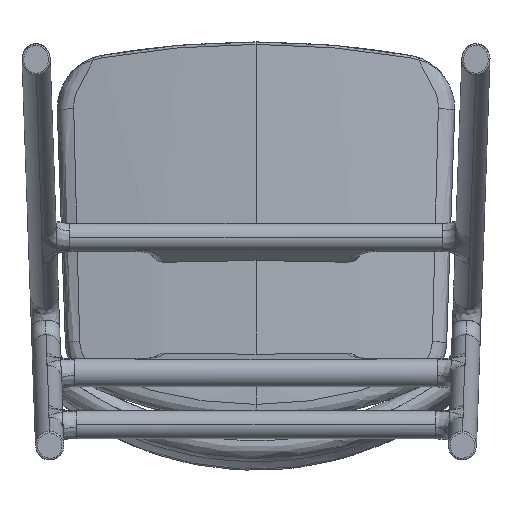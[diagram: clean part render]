
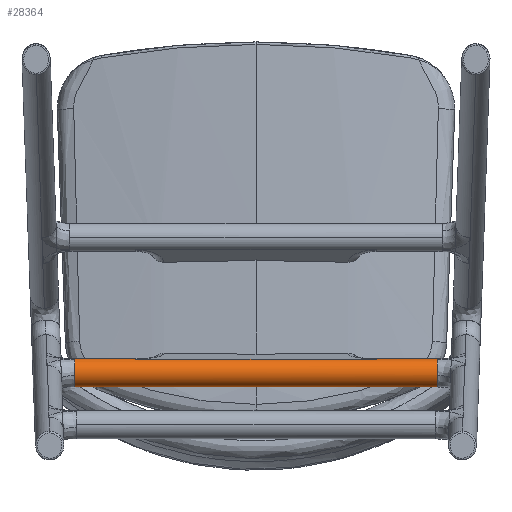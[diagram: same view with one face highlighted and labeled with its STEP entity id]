
A CAD part, front view. The second image highlights one B-rep face of the part: STEP entity #28364.
In plain terms, the highlighted cylindrical face has radius 16 mm (diameter 32 mm), a partial arc.
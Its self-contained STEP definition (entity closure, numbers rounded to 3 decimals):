
#217 = DIRECTION ( 'NONE',  ( -1., 0., 0. ) ) ;
#535 = ORIENTED_EDGE ( 'NONE', *, *, #5042, .T. ) ;
#589 = CARTESIAN_POINT ( 'NONE',  ( 33144.219, -1547.732, -90332.154 ) ) ;
#942 = CARTESIAN_POINT ( 'NONE',  ( 33144.219, -1541.803, -90317.293 ) ) ;
#1236 = EDGE_CURVE ( 'Defeatured_1_45+Defeatured_1_47+Defeatured_1_47+Defeatured_1_43', #2031, #6454, #13883, .T. ) ;
#1758 = EDGE_CURVE ( 'Defeatured_1_47+Defeatured_1_42+Defeatured_1_47+Defeatured_1_43', #40199, #2857, #40591, .T. ) ;
#2008 = CARTESIAN_POINT ( 'NONE',  ( 32733.941, -1557.005, -90312.303 ) ) ;
#2031 = VERTEX_POINT ( 'NONE', #3799 ) ;
#2586 = CARTESIAN_POINT ( 'NONE',  ( 33144.219, -1557.005, -90312.303 ) ) ;
#2857 = VERTEX_POINT ( 'NONE', #37318 ) ;
#3799 = CARTESIAN_POINT ( 'NONE',  ( 33075.08, -1545.13, -90301.643 ) ) ;
#4519 = VERTEX_POINT ( 'NONE', #41803 ) ;
#4525 = CARTESIAN_POINT ( 'NONE',  ( 33144.219, -1544.877, -90333.293 ) ) ;
#4557 = DIRECTION ( 'NONE',  ( -1., 0., 0. ) ) ;
#4864 = DIRECTION ( 'NONE',  ( 0., -0.208, 0.978 ) ) ;
#5042 = EDGE_CURVE ( 'Defeatured_1_47+Defeatured_1_44+Defeatured_1_45+Defeatured_1_42', #2031, #40199, #30227, .T. ) ;
#5482 = CARTESIAN_POINT ( 'NONE',  ( 33144.219, -1541.803, -90333.293 ) ) ;
#5537 = CARTESIAN_POINT ( 'NONE',  ( 32733.941, -1541.803, -90333.293 ) ) ;
#5777 = AXIS2_PLACEMENT_3D ( 'NONE', #942, #14364, #34596 ) ;
#6012 = EDGE_CURVE ( 'Defeatured_1_47+Defeatured_1_59+Defeatured_1_46+Defeatured_1_58', #16971, #19386, #17590, .T. ) ;
#6454 = VERTEX_POINT ( 'NONE', #7539 ) ;
#6517 = ORIENTED_EDGE ( 'NONE', *, *, #6012, .T. ) ;
#6584 = CARTESIAN_POINT ( 'NONE',  ( 33144.219, -1541.803, -90301.293 ) ) ;
#7472 = CARTESIAN_POINT ( 'NONE',  ( 32733.941, -1541.908, -90301.293 ) ) ;
#7539 = CARTESIAN_POINT ( 'NONE',  ( 33075.08, -1541.803, -90301.293 ) ) ;
#8976 = CARTESIAN_POINT ( 'NONE',  ( 33144.219, -1557.013, -90312.329 ) ) ;
#9362 = DIRECTION ( 'NONE',  ( -1., 0., 0. ) ) ;
#9576 = CARTESIAN_POINT ( 'NONE',  ( 33144.219, -1541.803, -90301.293 ) ) ;
#10154 = ORIENTED_EDGE ( 'NONE', *, *, #37507, .T. ) ;
#10910 = VERTEX_POINT ( 'NONE', #11436 ) ;
#10918 = CARTESIAN_POINT ( 'NONE',  ( 33144.219, -1541.803, -90333.293 ) ) ;
#11436 = CARTESIAN_POINT ( 'NONE',  ( 33144.219, -1557.005, -90312.303 ) ) ;
#12729 = VECTOR ( 'NONE', #217, 1000. ) ;
#13883 = CIRCLE ( 'NONE', #39169, 16. ) ;
#14051 = VECTOR ( 'NONE', #20971, 1000. ) ;
#14235 = CARTESIAN_POINT ( 'NONE',  ( 33144.219, -1557.535, -90314.377 ) ) ;
#14285 = CARTESIAN_POINT ( 'NONE',  ( 33144.219, -1541.803, -90301.293 ) ) ;
#14364 = DIRECTION ( 'NONE',  ( -1., 0., 0. ) ) ;
#14713 = CARTESIAN_POINT ( 'NONE',  ( 32733.941, -1541.803, -90301.293 ) ) ;
#15360 = CARTESIAN_POINT ( 'NONE',  ( 33144.219, -1557.022, -90312.355 ) ) ;
#15960 = CARTESIAN_POINT ( 'NONE',  ( 33144.219, -1553.44, -90301.444 ) ) ;
#16230 = EDGE_CURVE ( 'Defeatured_1_58+Defeatured_1_47+Defeatured_1_47+Defeatured_1_59', #19386, #26125, #39421, .T. ) ;
#16326 = ORIENTED_EDGE ( 'NONE', *, *, #34506, .T. ) ;
#16735 = DIRECTION ( 'NONE',  ( 0., 0.839, -0.545 ) ) ;
#16971 = VERTEX_POINT ( 'NONE', #2008 ) ;
#17590 = B_SPLINE_CURVE_WITH_KNOTS ( 'NONE', 3,
 ( #21113, #41368, #17801, #25065 ),
 .UNSPECIFIED., .F., .F.,
 ( 4, 4 ),
 ( 0., 1. ),
 .UNSPECIFIED. ) ;
#17617 = EDGE_LOOP ( 'NONE', ( #35030, #20926, #38620, #10154, #22536, #36468, #535, #31797, #26626, #16326, #6517, #37868 ) ) ;
#17801 = CARTESIAN_POINT ( 'NONE',  ( 32733.941, -1557.022, -90312.355 ) ) ;
#17999 = CARTESIAN_POINT ( 'NONE',  ( 32733.941, -1553.44, -90301.444 ) ) ;
#18364 = VECTOR ( 'NONE', #27798, 1000. ) ;
#19386 = VERTEX_POINT ( 'NONE', #34186 ) ;
#19791 = LINE ( 'NONE', #6584, #12729 ) ;
#20926 = ORIENTED_EDGE ( 'NONE', *, *, #29708, .T. ) ;
#20971 = DIRECTION ( 'NONE',  ( -1., 0., 0. ) ) ;
#21113 = CARTESIAN_POINT ( 'NONE',  ( 32733.941, -1557.005, -90312.303 ) ) ;
#21469 = CARTESIAN_POINT ( 'NONE',  ( 33144.219, -1559.928, -90327.288 ) ) ;
#22536 = ORIENTED_EDGE ( 'NONE', *, *, #34311, .T. ) ;
#22565 = AXIS2_PLACEMENT_3D ( 'NONE', #40520, #33459, #16735 ) ;
#24266 = CYLINDRICAL_SURFACE ( 'NONE', #5777, 16. ) ;
#24683 =( BOUNDED_CURVE ( )  B_SPLINE_CURVE ( 2, ( #14713, #7472, #37828, #17999, #34943 ),
 .UNSPECIFIED., .F., .T. ) 
 B_SPLINE_CURVE_WITH_KNOTS ( ( 3, 2, 3 ),
 ( -4.137, -4.123, -2.891 ),
 .UNSPECIFIED. ) 
 CURVE ( )  GEOMETRIC_REPRESENTATION_ITEM ( )  RATIONAL_B_SPLINE_CURVE ( ( 0.995, 0.998, 1., 0.796, 0.958 ) ) 
 REPRESENTATION_ITEM ( '' )  );
#25059 = B_SPLINE_CURVE_WITH_KNOTS ( 'NONE', 3,
 ( #29657, #15360, #8976, #2586 ),
 .UNSPECIFIED., .F., .F.,
 ( 4, 4 ),
 ( 0., 1. ),
 .UNSPECIFIED. ) ;
#25065 = CARTESIAN_POINT ( 'NONE',  ( 32733.941, -1557.03, -90312.381 ) ) ;
#26125 = VERTEX_POINT ( 'NONE', #5537 ) ;
#26304 = LINE ( 'NONE', #9576, #27548 ) ;
#26355 =( BOUNDED_CURVE ( )  B_SPLINE_CURVE ( 2, ( #43463, #15960, #42815, #36428, #32474 ),
 .UNSPECIFIED., .F., .T. ) 
 B_SPLINE_CURVE_WITH_KNOTS ( ( 3, 2, 3 ),
 ( -1.822, -0.589, -0.575 ),
 .UNSPECIFIED. ) 
 CURVE ( )  GEOMETRIC_REPRESENTATION_ITEM ( )  RATIONAL_B_SPLINE_CURVE ( ( 0.958, 0.796, 1., 0.998, 0.995 ) ) 
 REPRESENTATION_ITEM ( '' )  );
#26626 = ORIENTED_EDGE ( 'NONE', *, *, #36187, .T. ) ;
#26948 = EDGE_CURVE ( 'Defeatured_1_47+Defeatured_1_51+Defeatured_1_50+Defeatured_1_48', #4519, #10910, #25059, .T. ) ;
#27237 = AXIS2_PLACEMENT_3D ( 'NONE', #41009, #38126, #4864 ) ;
#27548 = VECTOR ( 'NONE', #9362, 1000. ) ;
#27798 = DIRECTION ( 'NONE',  ( -1., 0., 0. ) ) ;
#28364 = ADVANCED_FACE ( 'Defeatured_1_47', ( #41006 ), #24266, .T. ) ;
#29521 = VERTEX_POINT ( 'NONE', #14285 ) ;
#29657 = CARTESIAN_POINT ( 'NONE',  ( 33144.219, -1557.03, -90312.381 ) ) ;
#29708 = EDGE_CURVE ( 'Defeatured_1_47+Defeatured_1_50+Defeatured_1_47+Defeatured_1_51', #35414, #4519, #34197, .T. ) ;
#30227 = LINE ( 'NONE', #31106, #14051 ) ;
#31106 = CARTESIAN_POINT ( 'NONE',  ( 32939.08, -1545.13, -90301.643 ) ) ;
#31114 = CARTESIAN_POINT ( 'NONE',  ( 32803.08, -1545.13, -90301.643 ) ) ;
#31174 = CARTESIAN_POINT ( 'NONE',  ( 33144.219, -1557.347, -90313.363 ) ) ;
#31413 = DIRECTION ( 'NONE',  ( 0., -0.208, 0.978 ) ) ;
#31797 = ORIENTED_EDGE ( 'NONE', *, *, #1758, .T. ) ;
#32474 = CARTESIAN_POINT ( 'NONE',  ( 33144.219, -1541.803, -90301.293 ) ) ;
#33459 = DIRECTION ( 'NONE',  ( 1., 0., 0. ) ) ;
#34186 = CARTESIAN_POINT ( 'NONE',  ( 32733.941, -1557.03, -90312.381 ) ) ;
#34197 =( BOUNDED_CURVE ( )  B_SPLINE_CURVE ( 2, ( #10918, #4525, #589, #21469, #14235, #31174, #38204 ),
 .UNSPECIFIED., .F., .T. ) 
 B_SPLINE_CURVE_WITH_KNOTS ( ( 3, 2, 2, 3 ),
 ( -3.727, -3.338, -1.963, -1.827 ),
 .UNSPECIFIED. ) 
 CURVE ( )  GEOMETRIC_REPRESENTATION_ITEM ( )  RATIONAL_B_SPLINE_CURVE ( ( 0.908, 0.936, 1., 0.773, 1., 0.977, 0.959 ) ) 
 REPRESENTATION_ITEM ( '' )  );
#34311 = EDGE_CURVE ( 'NONE', #29521, #6454, #19791, .T. ) ;
#34385 = LINE ( 'NONE', #41013, #18364 ) ;
#34506 = EDGE_CURVE ( 'Defeatured_1_47+Defeatured_1_46+Defeatured_1_62+Defeatured_1_59', #40531, #16971, #24683, .T. ) ;
#34596 = DIRECTION ( 'NONE',  ( 0., 0., 1. ) ) ;
#34943 = CARTESIAN_POINT ( 'NONE',  ( 32733.941, -1557.005, -90312.303 ) ) ;
#35030 = ORIENTED_EDGE ( 'NONE', *, *, #38639, .F. ) ;
#35127 = CARTESIAN_POINT ( 'NONE',  ( 33075.08, -1541.803, -90317.293 ) ) ;
#35414 = VERTEX_POINT ( 'NONE', #5482 ) ;
#36187 = EDGE_CURVE ( 'NONE', #2857, #40531, #26304, .T. ) ;
#36428 = CARTESIAN_POINT ( 'NONE',  ( 33144.219, -1541.908, -90301.293 ) ) ;
#36468 = ORIENTED_EDGE ( 'NONE', *, *, #1236, .F. ) ;
#37318 = CARTESIAN_POINT ( 'NONE',  ( 32803.08, -1541.803, -90301.293 ) ) ;
#37507 = EDGE_CURVE ( 'Defeatured_1_47+Defeatured_1_48+Defeatured_1_51+Defeatured_1_54', #10910, #29521, #26355, .T. ) ;
#37828 = CARTESIAN_POINT ( 'NONE',  ( 32733.941, -1542.012, -90301.295 ) ) ;
#37868 = ORIENTED_EDGE ( 'NONE', *, *, #16230, .T. ) ;
#38126 = DIRECTION ( 'NONE',  ( -1., 0., 0. ) ) ;
#38204 = CARTESIAN_POINT ( 'NONE',  ( 33144.219, -1557.03, -90312.381 ) ) ;
#38620 = ORIENTED_EDGE ( 'NONE', *, *, #26948, .T. ) ;
#38639 = EDGE_CURVE ( 'NONE', #35414, #26125, #34385, .T. ) ;
#39169 = AXIS2_PLACEMENT_3D ( 'NONE', #35127, #4557, #31413 ) ;
#39421 = CIRCLE ( 'NONE', #22565, 16. ) ;
#40199 = VERTEX_POINT ( 'NONE', #31114 ) ;
#40201 = CARTESIAN_POINT ( 'NONE',  ( 32733.941, -1541.803, -90301.293 ) ) ;
#40520 = CARTESIAN_POINT ( 'NONE',  ( 32733.941, -1541.803, -90317.293 ) ) ;
#40531 = VERTEX_POINT ( 'NONE', #40201 ) ;
#40591 = CIRCLE ( 'NONE', #27237, 16. ) ;
#41006 = FACE_OUTER_BOUND ( 'NONE', #17617, .T. ) ;
#41009 = CARTESIAN_POINT ( 'NONE',  ( 32803.08, -1541.803, -90317.293 ) ) ;
#41013 = CARTESIAN_POINT ( 'NONE',  ( 33144.219, -1541.803, -90333.293 ) ) ;
#41368 = CARTESIAN_POINT ( 'NONE',  ( 32733.941, -1557.013, -90312.329 ) ) ;
#41803 = CARTESIAN_POINT ( 'NONE',  ( 33144.219, -1557.03, -90312.381 ) ) ;
#42815 = CARTESIAN_POINT ( 'NONE',  ( 33144.219, -1542.012, -90301.295 ) ) ;
#43463 = CARTESIAN_POINT ( 'NONE',  ( 33144.219, -1557.005, -90312.303 ) ) ;
